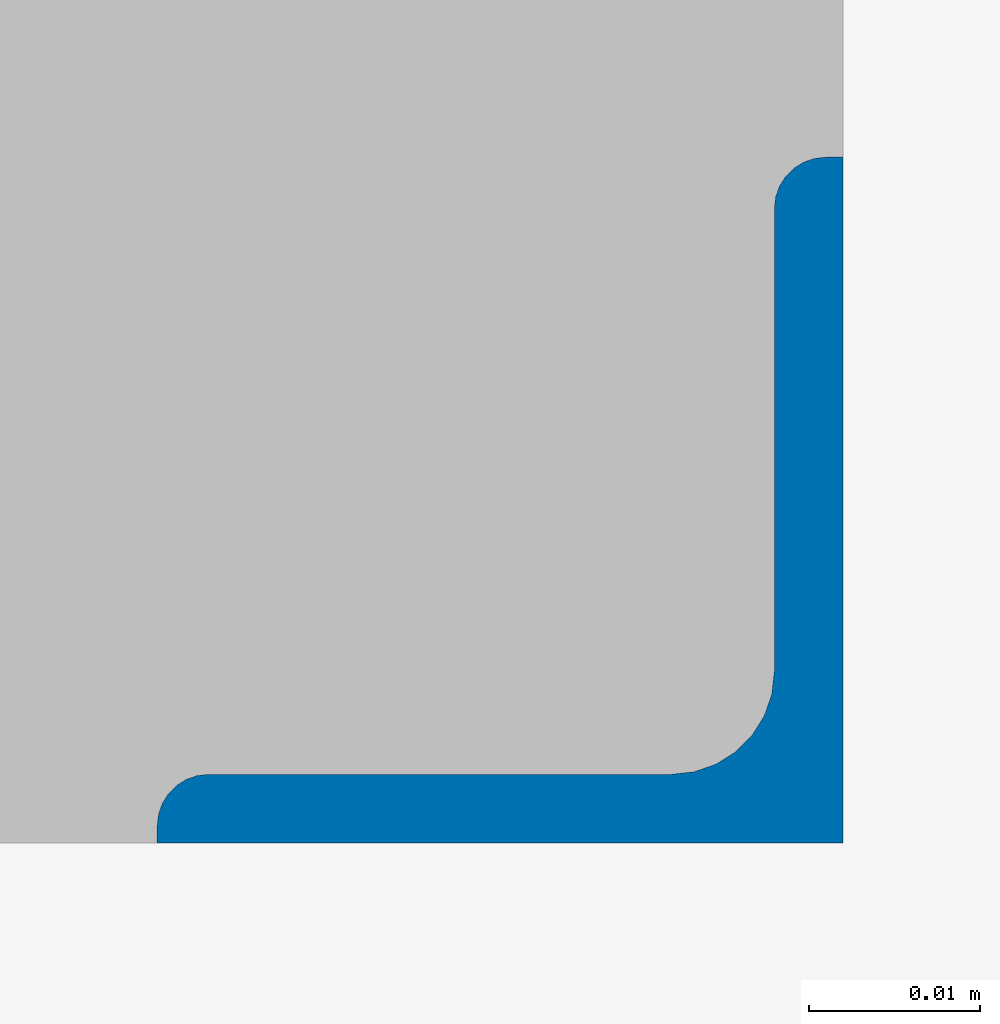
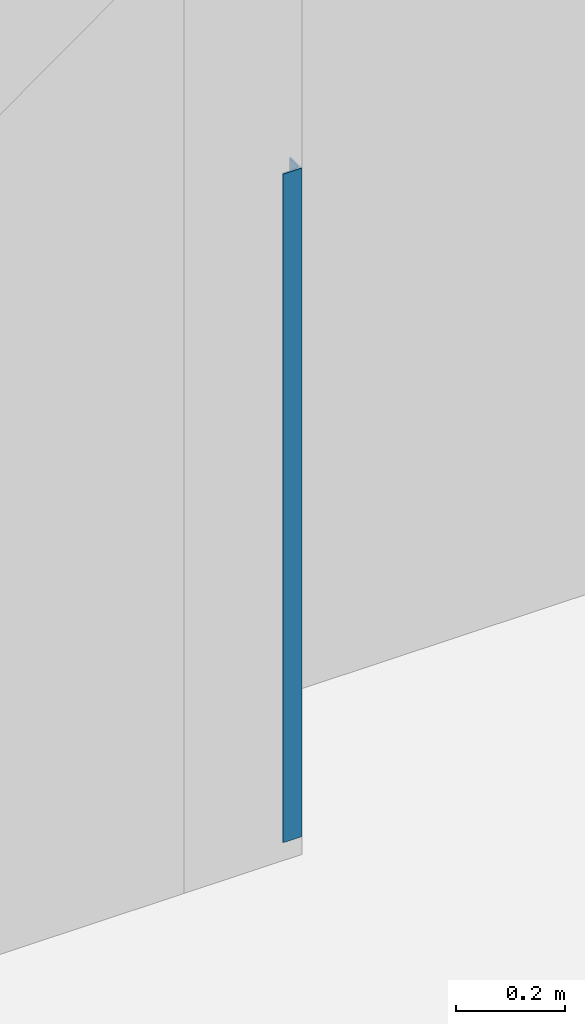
# One storey, part 8 of 42: 1 column.
"""IFC2X3 building model written with IfcOpenShell, lengths in millimetres."""

from ifc_helpers import new_model, entity, si_unit, converted_unit, derived_unit, direction, frame, frame_2d, origin, place, context, subcontext, project, spatial, polyline, circle_curve, parameter, trimmed, segment, composite_curve, outline, extrude, source, transform, mapped, material, type_object, type_shapes, element, save


model = new_model("IFC2X3")

# Units and contexts
model_context = context("Model", 3, precision=0.01, world=origin(), true_north=direction((6.12303176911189e-17, 1.0)))
body_context = subcontext(model_context, "Body", "Model", "MODEL_VIEW")
ifc_project = project(units=[si_unit("LENGTHUNIT", "METRE", prefix="MILLI"), si_unit("AREAUNIT", "SQUARE_METRE", prefix="MILLI"), si_unit("VOLUMEUNIT", "CUBIC_METRE"), converted_unit("PLANEANGLEUNIT", "DEGREE", entity("IfcRatioMeasure", 0.0174532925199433), si_unit("PLANEANGLEUNIT", "RADIAN"), dimensions=[0, 0, 0, 0, 0, 0, 0]), si_unit("MASSUNIT", "GRAM", prefix="KILO"), derived_unit("MASSDENSITYUNIT", [(si_unit("MASSUNIT", "GRAM", prefix="KILO"), 1), (si_unit("LENGTHUNIT", "METRE"), -3)]), derived_unit("MOMENTOFINERTIAUNIT", [(si_unit("LENGTHUNIT", "METRE"), 4)]), si_unit("TIMEUNIT", "SECOND"), si_unit("FREQUENCYUNIT", "HERTZ"), si_unit("THERMODYNAMICTEMPERATUREUNIT", "DEGREE_CELSIUS"), derived_unit("THERMALTRANSMITTANCEUNIT", [(si_unit("MASSUNIT", "GRAM", prefix="KILO"), 1), (si_unit("THERMODYNAMICTEMPERATUREUNIT", "KELVIN"), -1), (si_unit("TIMEUNIT", "SECOND"), -3)]), derived_unit("VOLUMETRICFLOWRATEUNIT", [(si_unit("LENGTHUNIT", "METRE"), 3), (si_unit("TIMEUNIT", "SECOND"), -1)]), si_unit("ELECTRICCURRENTUNIT", "AMPERE"), si_unit("ELECTRICVOLTAGEUNIT", "VOLT"), si_unit("POWERUNIT", "WATT"), si_unit("FORCEUNIT", "NEWTON", prefix="KILO"), si_unit("ILLUMINANCEUNIT", "LUX"), si_unit("LUMINOUSFLUXUNIT", "LUMEN"), si_unit("LUMINOUSINTENSITYUNIT", "CANDELA"), derived_unit("USERDEFINED", [(si_unit("MASSUNIT", "GRAM", prefix="KILO"), -1), (si_unit("LENGTHUNIT", "METRE"), -2), (si_unit("TIMEUNIT", "SECOND"), 3), (si_unit("LUMINOUSFLUXUNIT", "LUMEN"), 1)]), derived_unit("LINEARVELOCITYUNIT", [(si_unit("LENGTHUNIT", "METRE"), 1), (si_unit("TIMEUNIT", "SECOND"), -1)]), si_unit("PRESSUREUNIT", "PASCAL"), derived_unit("USERDEFINED", [(si_unit("LENGTHUNIT", "METRE"), -2), (si_unit("MASSUNIT", "GRAM", prefix="KILO"), 1), (si_unit("TIMEUNIT", "SECOND"), -2)]), derived_unit("LINEARFORCEUNIT", [(si_unit("MASSUNIT", "GRAM", prefix="KILO"), 1), (si_unit("LENGTHUNIT", "METRE"), 1), (si_unit("TIMEUNIT", "SECOND"), -2), (si_unit("LENGTHUNIT", "METRE"), -1)]), derived_unit("PLANARFORCEUNIT", [(si_unit("MASSUNIT", "GRAM", prefix="KILO"), 1), (si_unit("LENGTHUNIT", "METRE"), 1), (si_unit("TIMEUNIT", "SECOND"), -2), (si_unit("LENGTHUNIT", "METRE"), -2)])], contexts=[model_context])

# Site, building, storey
site_placement = place(None, origin())
site = spatial("IfcSite", under=ifc_project, at=site_placement, Name="Theater aan de Parade", CompositionType="ELEMENT")
building_placement = place(site_placement, origin())
building = spatial("IfcBuilding", under=site, at=building_placement, Name="Theater aan de Parade", CompositionType="ELEMENT")
storey_placement = place(building_placement, frame((0.0, 0.0, -3300.0)))
storey = spatial("IfcBuildingStorey", under=building, at=storey_placement, Name="-1 kelder", CompositionType="ELEMENT", Elevation=-3300.0)

# Column
ifc_material = material(Name="00_PBT_MAT_staal")
column_type = type_object("IfcColumnType", Name="28_PBT_SC_staal_L-profiel:L40x40x4_bestaand", PredefinedType="COLUMN", material=ifc_material)
shared_shape = source(origin(), body_context, "Body", "SweptSolid", [
    extrude(outline(composite_curve([segment(polyline([(-15.1111111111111, -15.1111111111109), (24.8888888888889, -15.1111111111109)]), True, "CONTINUOUS"), segment(polyline([(24.8888888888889, -15.1111111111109), (24.8888888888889, -14.1111111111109)]), True, "CONTINUOUS"), segment(trimmed(circle_curve(frame_2d((21.8888888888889, -14.1111111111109), x_axis=(1.0, 0.0)), 3.0), [parameter(0.0)], [parameter(90.0000000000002)], True, "PARAMETER"), True, "CONTINUOUS"), segment(polyline([(21.8888888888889, -11.1111111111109), (-5.11111111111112, -11.1111111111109)]), True, "CONTINUOUS"), segment(trimmed(circle_curve(frame_2d((-5.11111111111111, -5.11111111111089), x_axis=(0.0, -1.0)), 6.0), [parameter(270.0)], [parameter(0.0)], True, "PARAMETER"), False, "CONTINUOUS"), segment(polyline([(-11.1111111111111, -5.11111111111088), (-11.1111111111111, 21.8888888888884)]), True, "CONTINUOUS"), segment(trimmed(circle_curve(frame_2d((-14.1111111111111, 21.8888888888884), x_axis=(1.0, 0.0)), 3.0), [parameter(0.0)], [parameter(90.0000000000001)], True, "PARAMETER"), True, "CONTINUOUS"), segment(polyline([(-14.1111111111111, 24.8888888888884), (-15.1111111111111, 24.8888888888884)]), True, "CONTINUOUS"), segment(polyline([(-15.1111111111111, 24.8888888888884), (-15.1111111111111, -15.1111111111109)]), True, "CONTINUOUS")], self_intersect=False)), frame((3.91111111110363, -3.9111111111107, -3300.0), z_axis=(0.0, 0.0, 1.0), x_axis=(0.0, -1.0, 0.0)), (0.0, 0.0, 1.0), 1500.0),
])
type_shapes(column_type, [shared_shape])
column_placement = place(storey_placement, frame((45263.8, 43461.1999999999, 3300.0), z_axis=(0.0, 0.0, 1.0), x_axis=(-1.0, 0.0, 0.0)))
element("IfcColumn", 1, at=column_placement, inside=storey, type_object=column_type, material=ifc_material, Name="28_PBT_SC_staal_L-profiel:L40x40x4_bestaand", ObjectType="28_PBT_SC_staal_L-profiel:L40x40x4_bestaand", context=body_context, shape_type="MappedRepresentation", body=[
    mapped(shared_shape, transform((0.0, 0.0, 0.0), scale=1.0)),
])

save(model, "model.ifc")
